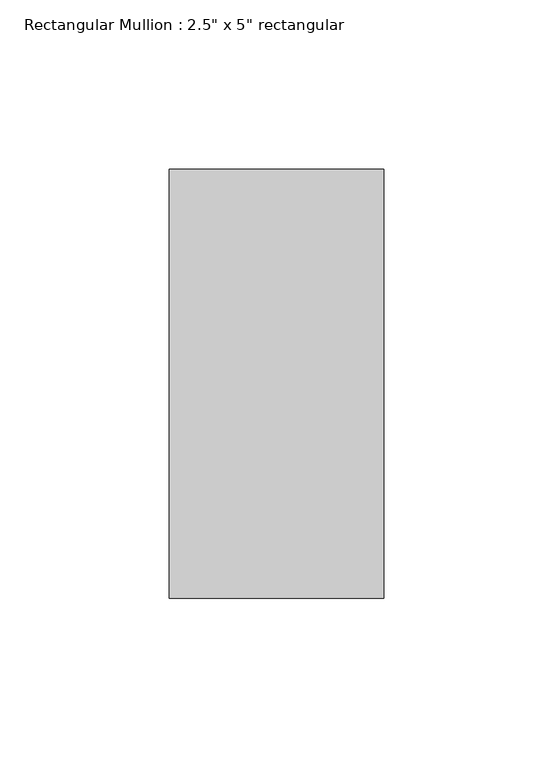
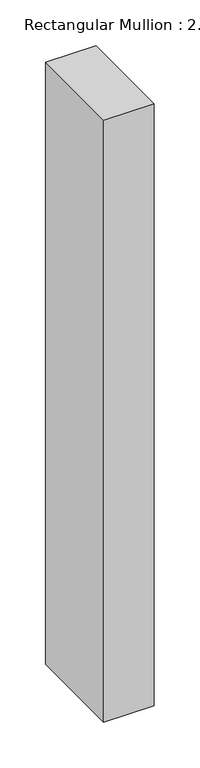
"""IFC4 building model written with IfcOpenShell, lengths in millimetres: member geometry."""

from ifc_helpers import new_model, si_unit, frame, origin, place, context, project, spatial, polyline, outline, extrude, source, transform, mapped, element, save


def member_47ea2df9(model_context):
    return source(origin(), model_context, "Body", "SweptSolid", [
        extrude(outline(polyline([(31.75, 63.5), (31.75, -63.5), (-31.75, -63.5), (-31.75, 63.5), (31.75, 63.5)])), frame((0.0, 0.0, -802.64), z_axis=(0.0, 0.0, 1.0), x_axis=(1.0, 0.0, 0.0)), (0.0, 0.0, 1.0), 802.64),
    ])


if __name__ == "__main__":
    model = new_model("IFC4")
    model_context = context("Model", 3, world=origin())
    ifc_project = project(units=[si_unit("LENGTHUNIT", "METRE", prefix="MILLI")], contexts=[model_context])
    site = spatial("IfcSite", under=ifc_project)
    building = spatial("IfcBuilding", under=site)
    placement = place(None, origin())
    member_shape = member_47ea2df9(model_context)
    element("IfcMember", 1, ObjectType="Rectangular Mullion : 2.5\" x 5\" rectangular", at=placement, inside=building, context=model_context, shape_type="MappedRepresentation", body=[
        mapped(member_shape, transform((0.0, 0.0, 0.0), x_axis=(1.0, 0.0, 0.0), y_axis=(0.0, 1.0, 0.0), z_axis=(0.0, 0.0, 1.0))),
    ])
    save(model, "model.ifc")
